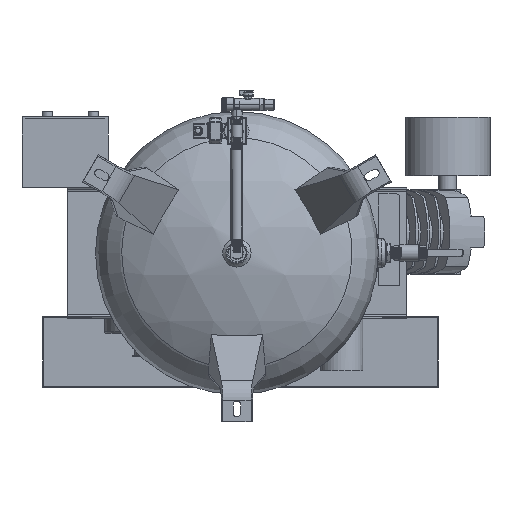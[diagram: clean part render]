
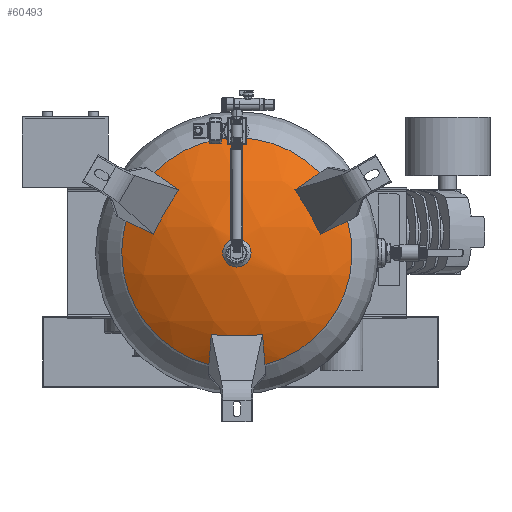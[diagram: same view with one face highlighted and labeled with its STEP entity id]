
A CAD part, front view. The second image highlights one B-rep face of the part: STEP entity #60493.
In plain terms, the highlighted spherical face has radius 386.292 mm.
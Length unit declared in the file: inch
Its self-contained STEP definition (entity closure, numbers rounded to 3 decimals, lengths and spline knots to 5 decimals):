
#84=SPHERICAL_SURFACE('',#64409,15.20833);
#1110=FACE_BOUND('',#9662,.T.);
#5978=FACE_OUTER_BOUND('',#9661,.T.);
#9661=EDGE_LOOP('',(#53265,#53266,#53267,#53268,#53269,#53270,#53271,#53272,
#53273,#53274,#53275,#53276,#53277));
#9662=EDGE_LOOP('',(#53278));
#12827=CIRCLE('',#64366,14.69534);
#12840=CIRCLE('',#64400,14.69534);
#12841=CIRCLE('',#64407,14.84587);
#12842=CIRCLE('',#64410,8.14126);
#12843=CIRCLE('',#64411,14.69534);
#12844=CIRCLE('',#64412,14.84587);
#12845=CIRCLE('',#64413,14.69534);
#12846=CIRCLE('',#64414,8.14126);
#12847=CIRCLE('',#64415,8.14126);
#12848=CIRCLE('',#64416,14.69534);
#12849=CIRCLE('',#64417,14.84587);
#12850=CIRCLE('',#64418,14.69534);
#12851=CIRCLE('',#64419,8.14126);
#12852=CIRCLE('',#64420,1.);
#29397=VERTEX_POINT('',#223825);
#29398=VERTEX_POINT('',#223826);
#29432=VERTEX_POINT('',#224030);
#29433=VERTEX_POINT('',#224031);
#29437=VERTEX_POINT('',#224058);
#29438=VERTEX_POINT('',#224060);
#29439=VERTEX_POINT('',#224062);
#29440=VERTEX_POINT('',#224064);
#29441=VERTEX_POINT('',#224066);
#29442=VERTEX_POINT('',#224068);
#29443=VERTEX_POINT('',#224070);
#29444=VERTEX_POINT('',#224072);
#29445=VERTEX_POINT('',#224074);
#29446=VERTEX_POINT('',#224077);
#37530=EDGE_CURVE('',#29397,#29398,#12827,.T.);
#37580=EDGE_CURVE('',#29432,#29433,#12840,.T.);
#37590=EDGE_CURVE('',#29398,#29432,#12841,.T.);
#37591=EDGE_CURVE('',#29437,#29433,#12842,.T.);
#37592=EDGE_CURVE('',#29437,#29438,#12843,.T.);
#37593=EDGE_CURVE('',#29438,#29439,#12844,.T.);
#37594=EDGE_CURVE('',#29439,#29440,#12845,.T.);
#37595=EDGE_CURVE('',#29441,#29440,#12846,.T.);
#37596=EDGE_CURVE('',#29442,#29441,#12847,.T.);
#37597=EDGE_CURVE('',#29442,#29443,#12848,.T.);
#37598=EDGE_CURVE('',#29443,#29444,#12849,.T.);
#37599=EDGE_CURVE('',#29444,#29445,#12850,.T.);
#37600=EDGE_CURVE('',#29397,#29445,#12851,.T.);
#37601=EDGE_CURVE('',#29446,#29446,#12852,.T.);
#53265=ORIENTED_EDGE('',*,*,#37530,.T.);
#53266=ORIENTED_EDGE('',*,*,#37590,.T.);
#53267=ORIENTED_EDGE('',*,*,#37580,.T.);
#53268=ORIENTED_EDGE('',*,*,#37591,.F.);
#53269=ORIENTED_EDGE('',*,*,#37592,.T.);
#53270=ORIENTED_EDGE('',*,*,#37593,.T.);
#53271=ORIENTED_EDGE('',*,*,#37594,.T.);
#53272=ORIENTED_EDGE('',*,*,#37595,.F.);
#53273=ORIENTED_EDGE('',*,*,#37596,.F.);
#53274=ORIENTED_EDGE('',*,*,#37597,.T.);
#53275=ORIENTED_EDGE('',*,*,#37598,.T.);
#53276=ORIENTED_EDGE('',*,*,#37599,.T.);
#53277=ORIENTED_EDGE('',*,*,#37600,.F.);
#53278=ORIENTED_EDGE('',*,*,#37601,.T.);
#60493=ADVANCED_FACE('',(#5978,#1110),#84,.T.);
#64366=AXIS2_PLACEMENT_3D('',#223827,#76694,#76695);
#64400=AXIS2_PLACEMENT_3D('',#224032,#76788,#76789);
#64407=AXIS2_PLACEMENT_3D('',#224055,#76809,#76810);
#64409=AXIS2_PLACEMENT_3D('',#224057,#76813,#76814);
#64410=AXIS2_PLACEMENT_3D('',#224059,#76815,#76816);
#64411=AXIS2_PLACEMENT_3D('',#224061,#76817,#76818);
#64412=AXIS2_PLACEMENT_3D('',#224063,#76819,#76820);
#64413=AXIS2_PLACEMENT_3D('',#224065,#76821,#76822);
#64414=AXIS2_PLACEMENT_3D('',#224067,#76823,#76824);
#64415=AXIS2_PLACEMENT_3D('',#224069,#76825,#76826);
#64416=AXIS2_PLACEMENT_3D('',#224071,#76827,#76828);
#64417=AXIS2_PLACEMENT_3D('',#224073,#76829,#76830);
#64418=AXIS2_PLACEMENT_3D('',#224075,#76831,#76832);
#64419=AXIS2_PLACEMENT_3D('',#224076,#76833,#76834);
#64420=AXIS2_PLACEMENT_3D('',#224078,#76835,#76836);
#76694=DIRECTION('center_axis',(0.494,-0.152,-0.856));
#76695=DIRECTION('ref_axis',(0.,-0.985,0.175));
#76788=DIRECTION('center_axis',(-0.494,-0.152,0.856));
#76789=DIRECTION('ref_axis',(0.,0.985,0.175));
#76809=DIRECTION('center_axis',(-0.708,-0.576,-0.409));
#76810=DIRECTION('ref_axis',(0.,-0.579,0.815));
#76813=DIRECTION('center_axis',(0.,0.,-1.));
#76814=DIRECTION('ref_axis',(-1.,0.,0.));
#76815=DIRECTION('center_axis',(0.,1.,0.));
#76816=DIRECTION('ref_axis',(1.,0.,0.));
#76817=DIRECTION('center_axis',(0.494,-0.152,0.856));
#76818=DIRECTION('ref_axis',(0.,0.985,0.175));
#76819=DIRECTION('center_axis',(0.708,-0.576,-0.409));
#76820=DIRECTION('ref_axis',(0.,-0.579,0.815));
#76821=DIRECTION('center_axis',(-0.494,-0.152,-0.856));
#76822=DIRECTION('ref_axis',(0.,-0.985,0.175));
#76823=DIRECTION('center_axis',(0.,1.,0.));
#76824=DIRECTION('ref_axis',(1.,0.,0.));
#76825=DIRECTION('center_axis',(0.,1.,0.));
#76826=DIRECTION('ref_axis',(1.,0.,0.));
#76827=DIRECTION('center_axis',(-0.988,-0.152,0.));
#76828=DIRECTION('ref_axis',(0.,0.,-1.));
#76829=DIRECTION('center_axis',(0.,-0.576,
0.818));
#76830=DIRECTION('ref_axis',(0.,0.818,0.576));
#76831=DIRECTION('center_axis',(0.988,-0.152,0.));
#76832=DIRECTION('ref_axis',(0.,0.,1.));
#76833=DIRECTION('center_axis',(0.,1.,0.));
#76834=DIRECTION('ref_axis',(1.,0.,0.));
#76835=DIRECTION('center_axis',(0.,1.,0.));
#76836=DIRECTION('ref_axis',(-1.,0.,0.));
#223825=CARTESIAN_POINT('',(7.83068,2.36259,2.22725));
#223826=CARTESIAN_POINT('',(5.9193,1.26148,1.31932));
#223827=CARTESIAN_POINT('Origin',(1.93556,14.61277,-3.3525));
#224030=CARTESIAN_POINT('',(4.10221,1.26148,4.4666));
#224031=CARTESIAN_POINT('',(5.84419,2.36259,5.66794));
#224032=CARTESIAN_POINT('Origin',(-1.93556,14.61277,3.3525));
#224055=CARTESIAN_POINT('Origin',(-2.3369,13.30781,-1.34921));
#224057=CARTESIAN_POINT('Origin',(0.,15.20833,
0.));
#224058=CARTESIAN_POINT('',(-5.84419,2.36259,5.66794));
#224059=CARTESIAN_POINT('Origin',(0.,2.36259,
0.));
#224060=CARTESIAN_POINT('',(-4.10221,1.26148,4.4666));
#224061=CARTESIAN_POINT('Origin',(1.93556,14.61277,3.3525));
#224062=CARTESIAN_POINT('',(-5.9193,1.26148,1.31932));
#224063=CARTESIAN_POINT('Origin',(2.3369,13.30781,-1.34921));
#224064=CARTESIAN_POINT('',(-7.83068,2.36259,2.22725));
#224065=CARTESIAN_POINT('Origin',(-1.93556,14.61277,-3.3525));
#224066=CARTESIAN_POINT('',(-8.14126,2.36259,0.));
#224067=CARTESIAN_POINT('Origin',(0.,2.36259,
0.));
#224068=CARTESIAN_POINT('',(-1.98649,2.36259,-7.89519));
#224069=CARTESIAN_POINT('Origin',(0.,2.36259,
0.));
#224070=CARTESIAN_POINT('',(-1.81708,1.26148,-5.78592));
#224071=CARTESIAN_POINT('Origin',(-3.87113,14.61277,0.));
#224072=CARTESIAN_POINT('',(1.81708,1.26148,-5.78592));
#224073=CARTESIAN_POINT('Origin',(0.,13.30781,
2.69842));
#224074=CARTESIAN_POINT('',(1.98649,2.36259,-7.89519));
#224075=CARTESIAN_POINT('Origin',(3.87113,14.61277,0.));
#224076=CARTESIAN_POINT('Origin',(0.,2.36259,
0.));
#224077=CARTESIAN_POINT('',(1.,0.03291,0.));
#224078=CARTESIAN_POINT('Origin',(0.,0.03291,
0.));
